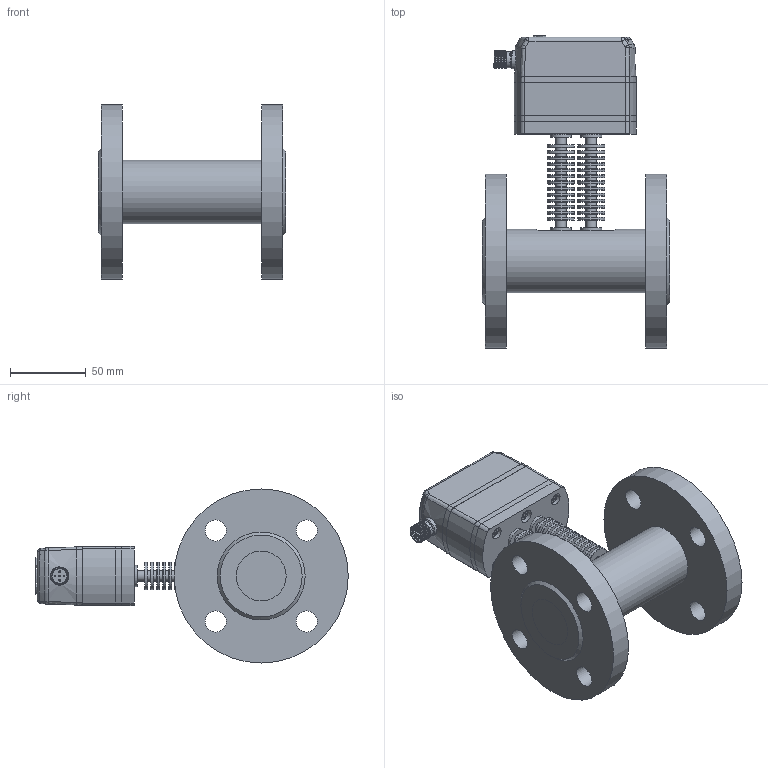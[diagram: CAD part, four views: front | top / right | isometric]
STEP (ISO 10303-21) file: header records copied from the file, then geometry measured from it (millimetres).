
FILE_DESCRIPTION( (''), '2;1');
FILE_NAME( 'QEKH_DN25_flange_cooling-fins_1.step', '2025-04-29T11:16:09+08:00', (''), (''), '', '', '');
FILE_SCHEMA (('AUTOMOTIVE_DESIGN { 1 0 10303 214 3 1 1 1 }'));
Length unit declared in the file: millimetre
Products named in the file (1): QEKH DN25_flange_cooling-fins_1
Bounding box: 124 x 206.4 x 115 mm (x, y, z)
Volume: 625013.8 mm3; surface area: 161230.7 mm2
Topology: 28 solids, 31 shells, 1696 faces, 4052 edges, 2583 vertices
Faces by surface type: plane 796, cylinder 348, extrusion 239, cone 204, torus 52, bspline 48, sphere 9
Full cylindrical faces by diameter (mm): 1 x10, 2.05 x4, 2.6 x4, 2.7 x5, 2.874 x4, 3 x6, 3.1 x1, 3.3 x8, 3.5 x7, 3.838 x6, 4.2 x2, 4.5 x12, 5 x2, 5.5 x10, 7 x34, 8 x4, 9 x2, 9.8 x2, 10.8 x1, 11 x4, 11.5 x2, 11.992 x2, 12 x8, 14 x14, 14.5 x2, 17 x2, 18 x26, 19.1 x6, 33 x4, 42 x1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
Entity records: 53966 total; most frequent: CARTESIAN_POINT 16795, ORIENTED_EDGE 7212, DIRECTION 6957, EDGE_CURVE 3606, VERTEX_POINT 2498, AXIS2_PLACEMENT_3D 2441, EDGE_LOOP 2284, VECTOR 2075
